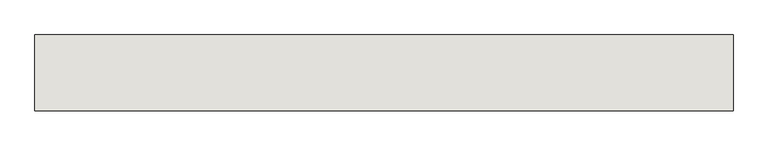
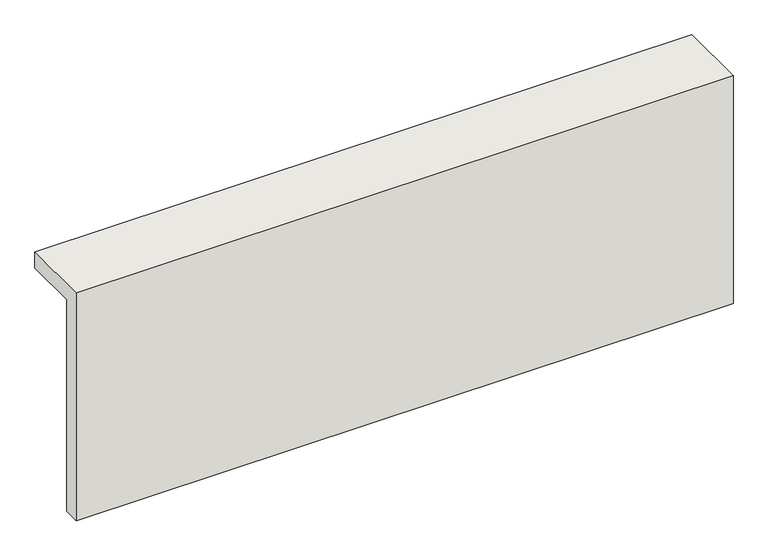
"""IFC4 building model written with IfcOpenShell, lengths in millimetres: wall geometry, Vorbau : Vorbau."""

from ifc_helpers import new_model, si_unit, frame, origin, place, context, project, spatial, polyline, outline, extrude, source, transform, mapped, element, save


def wall_73ff82e3(model_context):
    return source(origin(), model_context, "Body", "SweptSolid", [
        extrude(outline(polyline([(4965.1657991, 1582.3228873), (5435.1665401, 1582.3228873), (5435.1665401, 1472.6232534), (5074.865433, 1472.6232534), (5074.865433, 0.0), (4965.1657991, 0.0), (4965.1657991, 1582.3228873)])), frame((-8638.3526863, 0.0, 0.0), z_axis=(1.0, 0.0, 0.0), x_axis=(0.0, 1.0, 0.0)), (0.0, 0.0, 1.0), 4314.1330758),
    ])


if __name__ == "__main__":
    model = new_model("IFC4")
    model_context = context("Model", 3, world=origin())
    ifc_project = project(units=[si_unit("LENGTHUNIT", "METRE", prefix="MILLI")], contexts=[model_context])
    site = spatial("IfcSite", under=ifc_project)
    building = spatial("IfcBuilding", under=site)
    placement = place(None, origin())
    wall_shape = wall_73ff82e3(model_context)
    element("IfcWall", 1, ObjectType="Vorbau : Vorbau", at=placement, inside=building, context=model_context, shape_type="MappedRepresentation", body=[
        mapped(wall_shape, transform((0.0, 0.0, 0.0), x_axis=(1.0, 0.0, 0.0), y_axis=(0.0, 1.0, 0.0), z_axis=(0.0, 0.0, 1.0))),
    ])
    save(model, "model.ifc")
